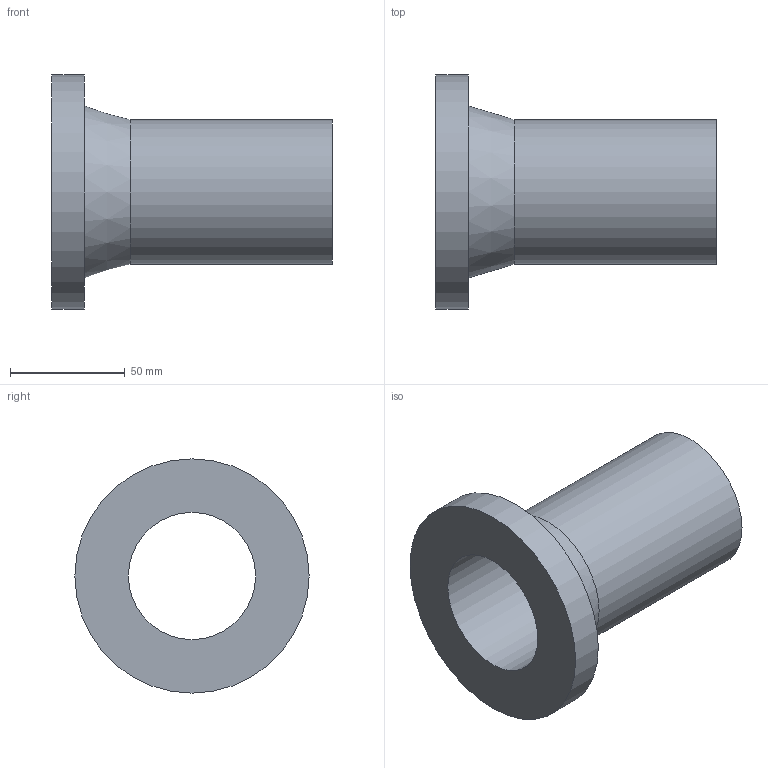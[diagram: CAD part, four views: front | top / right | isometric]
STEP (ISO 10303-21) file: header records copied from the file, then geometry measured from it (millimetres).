
FILE_DESCRIPTION(('Beschreibung'),'1');
FILE_NAME('V:/Ziel/25.80.01.063_SDR_17_PE100_063.STP', '2014-09-15T06:23:37',('Author'), ('Organization'), 'KCM Version 1.1.794.0', 'Kubotek KeyCreator', 'Authorization');
FILE_SCHEMA(('CONFIG_CONTROL_DESIGN'));
Length unit declared in the file: millimetre
Bounding box: 122 x 102 x 102 mm (x, y, z)
Volume: 169607.1 mm3; surface area: 57883.8 mm2
Topology: 1 solids, 1 shells, 7 faces, 18 edges, 21 vertices
Faces by surface type: cylinder 3, plane 3, cone 1
Full cylindrical faces by diameter (mm): 55.4 x1, 63 x1, 102 x1
Entity records: 286 total; most frequent: DIRECTION 41, CARTESIAN_POINT 33, ORIENTED_EDGE 22, AXIS2_PLACEMENT_3D 15, EDGE_CURVE 11, VECTOR 11, LINE 11, EDGE_LOOP 10
